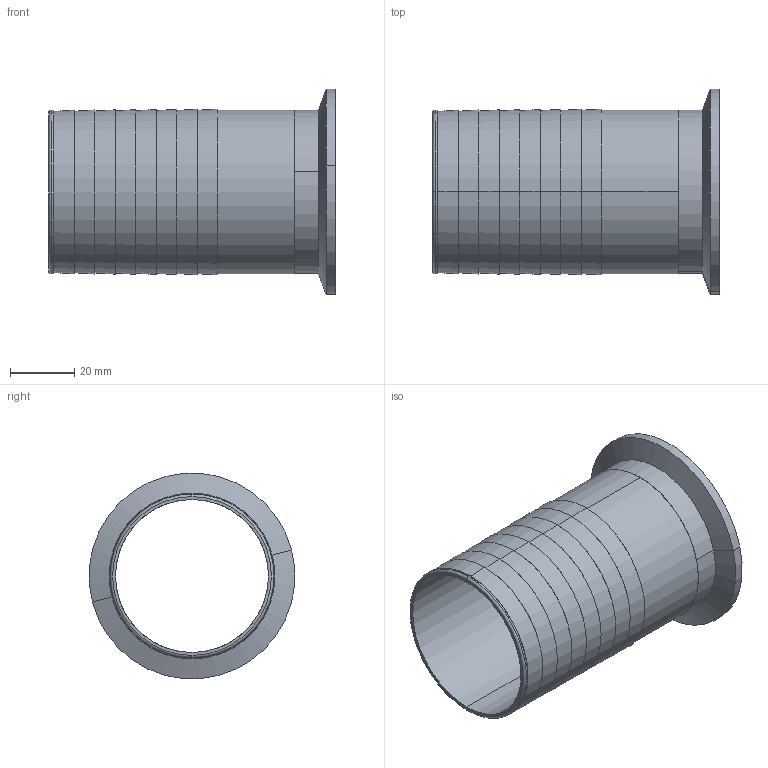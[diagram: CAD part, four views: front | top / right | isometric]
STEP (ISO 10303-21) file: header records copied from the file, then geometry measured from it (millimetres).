
FILE_DESCRIPTION (( 'STEP AP203' ), '1' );
FILE_NAME ('EG14RT2.0.STEP', '2018-05-03T13:14:18', ( 'vneprd' ), ( 'Microsoft' ), 'SwSTEP 2.0', 'SolidWorks 2014', '' );
FILE_SCHEMA (( 'CONFIG_CONTROL_DESIGN' ));
Length unit declared in the file: inch
Products named in the file (3): V14RH2.0; EG2CS2.0; EG14RT2.0
Assembly tree (2 placements, depth 2):
  EG14RT2.0
    V14RH2.0
    EG2CS2.0
Bounding box: 88.9 x 63.7 x 63.7 mm (x, y, z)
Volume: 26547.4 mm3; surface area: 31336.6 mm2
Topology: 2 solids, 2 shells, 59 faces, 118 edges, 72 vertices
Faces by surface type: cone 24, plane 13, cylinder 12, torus 10
Entity records: 1873 total; most frequent: DIRECTION 328, CARTESIAN_POINT 254, ORIENTED_EDGE 236, AXIS2_PLACEMENT_3D 146, EDGE_CURVE 118, CIRCLE 82, EDGE_LOOP 72, VERTEX_POINT 72
